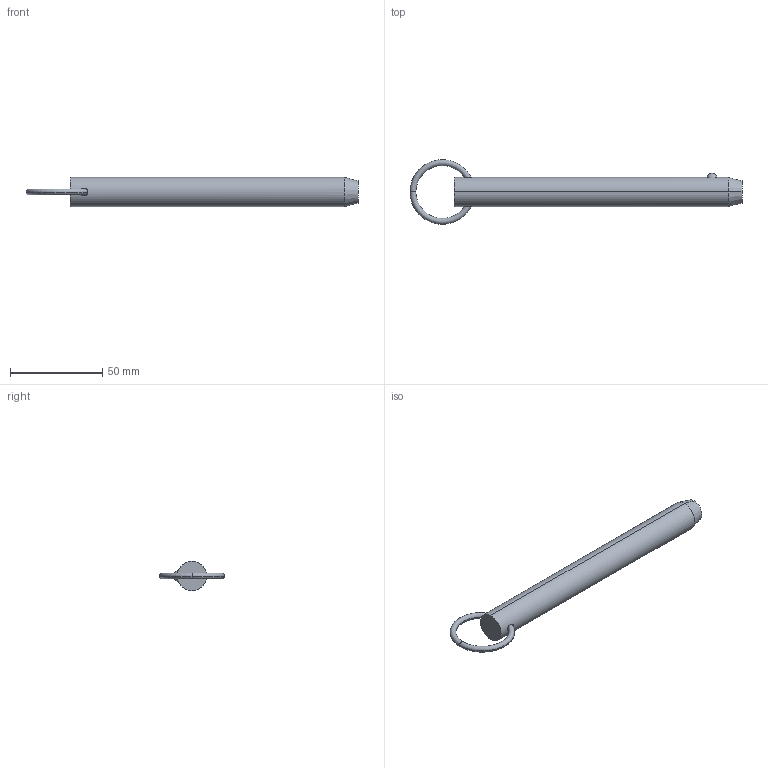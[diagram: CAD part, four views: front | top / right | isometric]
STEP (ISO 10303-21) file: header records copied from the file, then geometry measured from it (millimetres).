
FILE_DESCRIPTION (( 'STEP AP203' ), '1' );
FILE_NAME ('33010.W6250.step', '2024-11-01T10:42:25', ( '' ), ( '' ), 'SwSTEP 2.0', 'SolidWorks 2019', '' );
FILE_SCHEMA (( 'CONFIG_CONTROL_DESIGN' ));
Length unit declared in the file: millimetre
Products named in the file (3): Part1_33010.W6250; 33010.W6250; Part2_33010.W6250
Assembly tree (2 placements, depth 2):
  33010.W6250
    Part1_33010.W6250
    Part2_33010.W6250
Bounding box: 179.51 x 34.93 x 15.88 mm (x, y, z)
Volume: 31099.3 mm3; surface area: 9225 mm2
Topology: 2 solids, 2 shells, 16 faces, 31 edges, 18 vertices
Faces by surface type: torus 8, sphere 2, cone 2, cylinder 2, plane 2
Entity records: 889 total; most frequent: CARTESIAN_POINT 246, DIRECTION 88, ORIENTED_EDGE 62, AXIS2_PLACEMENT_3D 42, EDGE_CURVE 31, PERSON_AND_ORGANIZATION 26, CIRCLE 21, COORDINATED_UNIVERSAL_TIME_OFFSET 19
